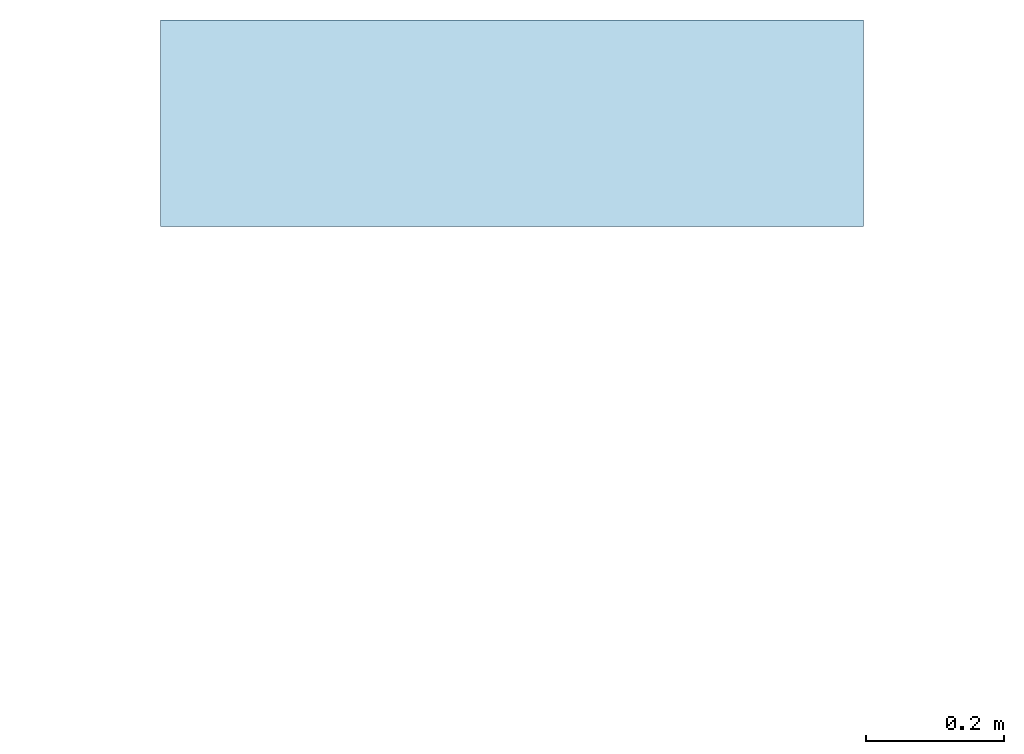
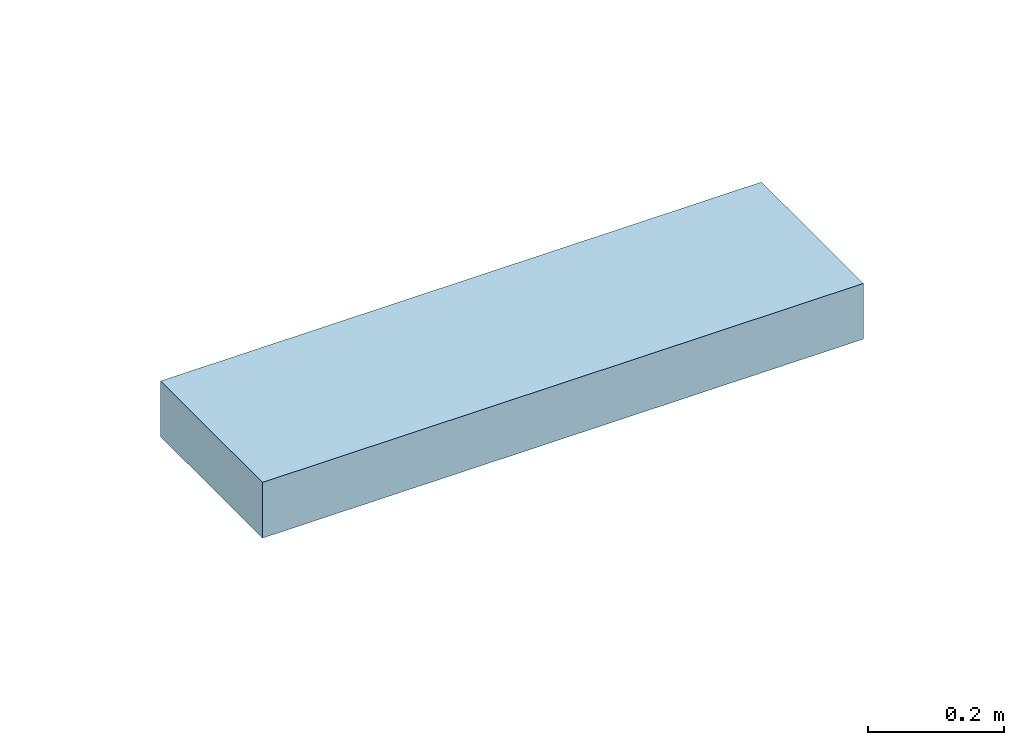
# One storey, part 1 of 16: 1 slab.
"""IFC2X3 building model written with IfcOpenShell, lengths in centimetres."""

from ifc_helpers import new_model, entity, si_unit, converted_unit, derived_unit, direction, frame, frame_2d, origin, place, context, subcontext, project, spatial, rectangle, extrude, material, layer, layer_set, layer_usage, element, save


model = new_model("IFC2X3")

# Units and contexts
model_context = context("Model", 3, precision=0.001, world=origin(), true_north=direction((6.12303176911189e-17, 1.0)))
body_context = subcontext(model_context, "Body", "Model", "MODEL_VIEW")
ifc_project = project(units=[si_unit("LENGTHUNIT", "METRE", prefix="CENTI"), si_unit("AREAUNIT", "SQUARE_METRE"), si_unit("VOLUMEUNIT", "CUBIC_METRE"), converted_unit("PLANEANGLEUNIT", "DEGREE", entity("IfcRatioMeasure", 0.0174532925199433), si_unit("PLANEANGLEUNIT", "RADIAN"), dimensions=[0, 0, 0, 0, 0, 0, 0]), si_unit("MASSUNIT", "GRAM", prefix="KILO"), derived_unit("MASSDENSITYUNIT", [(si_unit("MASSUNIT", "GRAM", prefix="KILO"), 1), (si_unit("LENGTHUNIT", "METRE"), -3)]), si_unit("TIMEUNIT", "SECOND"), si_unit("FREQUENCYUNIT", "HERTZ"), si_unit("THERMODYNAMICTEMPERATUREUNIT", "DEGREE_CELSIUS"), derived_unit("THERMALTRANSMITTANCEUNIT", [(si_unit("MASSUNIT", "GRAM", prefix="KILO"), 1), (si_unit("THERMODYNAMICTEMPERATUREUNIT", "KELVIN"), -1), (si_unit("TIMEUNIT", "SECOND"), -3)]), derived_unit("VOLUMETRICFLOWRATEUNIT", [(si_unit("LENGTHUNIT", "METRE"), 3), (si_unit("TIMEUNIT", "SECOND"), -1)]), si_unit("ELECTRICCURRENTUNIT", "AMPERE"), si_unit("ELECTRICVOLTAGEUNIT", "VOLT"), si_unit("POWERUNIT", "WATT"), si_unit("FORCEUNIT", "NEWTON"), si_unit("ILLUMINANCEUNIT", "LUX"), si_unit("LUMINOUSFLUXUNIT", "LUMEN"), si_unit("LUMINOUSINTENSITYUNIT", "CANDELA"), derived_unit("USERDEFINED", [(si_unit("MASSUNIT", "GRAM", prefix="KILO"), -1), (si_unit("LENGTHUNIT", "METRE"), -2), (si_unit("TIMEUNIT", "SECOND"), 3), (si_unit("LUMINOUSFLUXUNIT", "LUMEN"), 1)]), derived_unit("LINEARVELOCITYUNIT", [(si_unit("LENGTHUNIT", "METRE"), 1), (si_unit("TIMEUNIT", "SECOND"), -1)]), si_unit("PRESSUREUNIT", "PASCAL"), derived_unit("USERDEFINED", [(si_unit("LENGTHUNIT", "METRE"), -2), (si_unit("MASSUNIT", "GRAM", prefix="KILO"), 1), (si_unit("TIMEUNIT", "SECOND"), -2)])], contexts=[model_context])

# Site, building, storey
site_placement = place(None, origin())
site = spatial("IfcSite", under=ifc_project, at=site_placement, Name="Default", CompositionType="ELEMENT")
building_placement = place(site_placement, origin())
building = spatial("IfcBuilding", under=site, at=building_placement, Name="CAGE 03", CompositionType="ELEMENT")
storey_placement = place(building_placement, frame((0.0, 0.0, 65.0)))
storey = spatial("IfcBuildingStorey", under=building, at=storey_placement, Name="Ac RDC", CompositionType="ELEMENT", Elevation=64.9999999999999)

# Slab
ifc_material = material(Name="Béton, C25/30")
ifc_layer = layer(ifc_material, 10.0)
ifc_layer_set = layer_set([ifc_layer], Name="Sol:Dalle Béton - 10 cm")
ifc_layer_usage = layer_usage(ifc_layer_set, "AXIS3", "POSITIVE", 0.0)
slab_placement = place(storey_placement, origin())
element("IfcSlab", 1, at=slab_placement, inside=storey, material=ifc_layer_usage, Name="Sol:Dalle Béton - 10 cm", ObjectType="Sol:Dalle Béton - 10 cm", PredefinedType="FLOOR", context=body_context, shape_type="SweptSolid", body=[
    extrude(rectangle(XDim=30.0000000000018, YDim=101.999999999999, at=frame_2d((8.65973959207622e-13, -8.66862137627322e-13), x_axis=(1.0, 0.0))), frame((8026.86582014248, 5260.6606660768, 6.0), z_axis=(0.0, 0.0, -1.0), x_axis=(0.0, 1.0, 0.0)), (0.0, 0.0, 1.0), 10.0),
])

save(model, "model.ifc")
